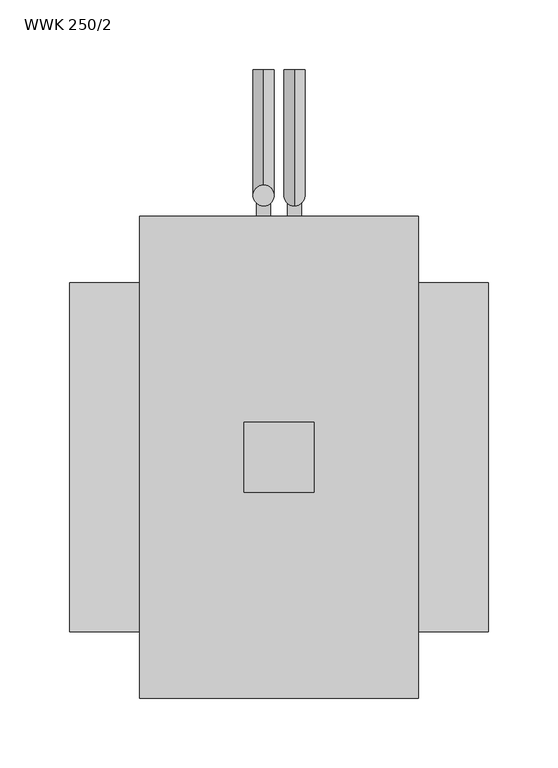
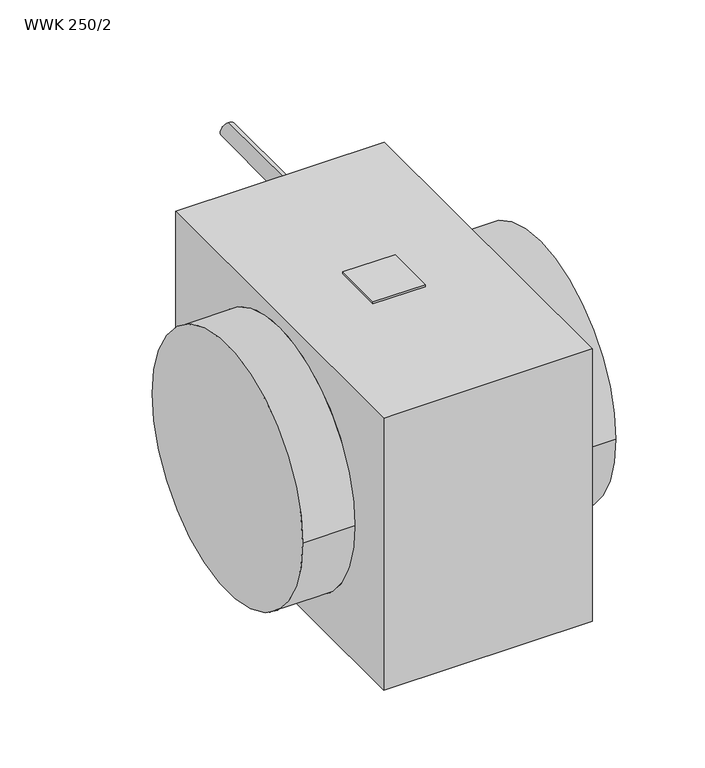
"""IFC4 building model written with IfcOpenShell, lengths in millimetres: proxy geometry, KORF_Нагреватель_Водяной_Круглый_WWK : WWK 250/2."""

from ifc_helpers import new_model, si_unit, point, frame, frame_2d, origin, place, context, project, spatial, polyline, circle_curve, ellipse_curve, trimmed, segment, composite_curve, outline, extrude, source, transform, mapped, element, save
from ifc_brep_helpers import plane_surface, cylinder_surface, advanced_brep


def wwk_250_2_b55ce8c8(model_context):
    return source(origin(), model_context, "Body", "SolidModel", [
        extrude(outline(polyline([(175.0, 25.0), (175.0, -25.0), (125.0, -25.0), (125.0, 25.0), (175.0, 25.0)])), frame((0.0, 0.0, 138.0), z_axis=(0.0, 0.0, 1.0), x_axis=(1.0, 0.0, 0.0)), (0.0, 0.0, 1.0), 2.0),
        advanced_brep(
        [(300.0, -125.0, 0.0), (300.0, 125.0, 0.0), (0.0, -125.0, 0.0), (0.0, 125.0, 0.0), (250.0, -125.0, 0.0), (250.0, 125.0, 0.0), (50.0, 125.0, 0.0), (50.0, -125.0, 0.0), (250.0, -172.5, 138.0), (250.0, -172.5, -138.0), (250.0, 172.5, -138.0), (250.0, 172.5, 138.0), (50.0, -172.5, 138.0), (50.0, 172.5, 138.0), (50.0, 172.5, -138.0), (50.0, -172.5, -138.0), (53.0, 172.5, 135.0), (53.0, 172.5, -135.0), (247.0, 172.5, -135.0), (247.0, 172.5, 135.0), (53.0, 152.5, 135.0), (247.0, 152.5, 135.0), (247.0, 152.5, -135.0), (53.0, 152.5, -135.0)],
        [
            (0, 1, circle_curve(frame((300.0, 0.0, 0.0), z_axis=(1.0, 0.0, 0.0), x_axis=(0.0, 1.0, 0.0)), 125.0)),
            (1, 0, circle_curve(frame((300.0, 0.0, 0.0), z_axis=(1.0, 0.0, 0.0), x_axis=(0.0, 1.0, 0.0)), 125.0)),
            (2, 3, circle_curve(frame((0.0, 0.0, 0.0), z_axis=(-1.0, 0.0, 0.0), x_axis=(0.0, 1.0, 0.0)), 125.0)),
            (3, 2, circle_curve(frame((0.0, 0.0, 0.0), z_axis=(-1.0, 0.0, 0.0), x_axis=(0.0, 1.0, 0.0)), 125.0)),
            (0, 4),
            (4, 5, circle_curve(frame((250.0, 0.0, 0.0), z_axis=(1.0, 0.0, 0.0), x_axis=(0.0, 1.0, 0.0)), 125.0)),
            (5, 1),
            (3, 6),
            (6, 7, circle_curve(frame((50.0, 0.0, 0.0), z_axis=(-1.0, 0.0, 0.0), x_axis=(0.0, 1.0, 0.0)), 125.0)),
            (7, 2),
            (5, 4, circle_curve(frame((250.0, 0.0, 0.0), z_axis=(1.0, 0.0, 0.0), x_axis=(0.0, 1.0, 0.0)), 125.0)),
            (7, 6, circle_curve(frame((50.0, 0.0, 0.0), z_axis=(-1.0, 0.0, 0.0), x_axis=(0.0, 1.0, 0.0)), 125.0)),
            (8, 9),
            (9, 10),
            (10, 11),
            (11, 8),
            (12, 13),
            (13, 14),
            (14, 15),
            (15, 12),
            (8, 12),
            (15, 9),
            (14, 10),
            (13, 11),
            (16, 17),
            (17, 18),
            (18, 19),
            (19, 16),
            (20, 21),
            (21, 22),
            (22, 23),
            (23, 20),
            (23, 17),
            (16, 20),
            (22, 18),
            (21, 19),
        ],
        [
            plane_surface(frame((300.0, 125.0, 0.0), z_axis=(1.0, 0.0, 0.0), x_axis=(0.0, 0.0, 1.0))),
            plane_surface(frame((0.0, 125.0, 0.0), z_axis=(-1.0, 0.0, 0.0), x_axis=(0.0, 0.0, -1.0))),
            cylinder_surface(frame((0.0, 0.0, 0.0), z_axis=(1.0, 0.0, 0.0), x_axis=(0.0, 1.0, 0.0)), 125.0),
            plane_surface(frame((250.0, -172.5, 138.0), z_axis=(1.0, 0.0, 0.0), x_axis=(0.0, 0.0, -1.0))),
            plane_surface(frame((50.0, -172.5, 138.0), z_axis=(-1.0, 0.0, 0.0), x_axis=(0.0, 0.0, 1.0))),
            plane_surface(frame((250.0, -172.5, 138.0), z_axis=(0.0, -1.0, 0.0), x_axis=(-1.0, 0.0, 0.0))),
            plane_surface(frame((250.0, -172.5, -138.0), z_axis=(0.0, 0.0, -1.0), x_axis=(-1.0, 0.0, 0.0))),
            plane_surface(frame((250.0, 172.5, -138.0), z_axis=(0.0, 1.0, 0.0), x_axis=(-1.0, 0.0, 0.0))),
            plane_surface(frame((250.0, 172.5, 138.0), z_axis=(0.0, 0.0, 1.0), x_axis=(-1.0, 0.0, 0.0))),
            plane_surface(frame((53.0, 152.5, 135.0), z_axis=(0.0, 1.0, 0.0), x_axis=(0.0, 0.0, -1.0))),
            plane_surface(frame((53.0, 152.5, 135.0), z_axis=(1.0, 0.0, 0.0), x_axis=(0.0, 1.0, 0.0))),
            plane_surface(frame((53.0, 152.5, -135.0), z_axis=(0.0, 0.0, 1.0), x_axis=(0.0, 1.0, 0.0))),
            plane_surface(frame((247.0, 152.5, -135.0), z_axis=(-1.0, 0.0, 0.0), x_axis=(0.0, 1.0, 0.0))),
            plane_surface(frame((247.0, 152.5, 135.0), z_axis=(0.0, 0.0, -1.0), x_axis=(0.0, 1.0, 0.0))),
        ],
        [
            (0, [[1, 2]]),
            (1, [[3, 4]]),
            (2, [[-1, 5, 6, 7]]),
            (2, [[-4, 8, 9, 10]]),
            (2, [[-2, -7, 11, -5]]),
            (2, [[-3, -10, 12, -8]]),
            (3, [[13, 14, 15, 16], [-6, -11]]),
            (4, [[17, 18, 19, 20], [-9, -12]]),
            (5, [[-13, 21, -20, 22]]),
            (6, [[-14, -22, -19, 23]]),
            (7, [[-15, -23, -18, 24], [25, 26, 27, 28]]),
            (8, [[-16, -24, -17, -21]]),
            (9, [[29, 30, 31, 32]]),
            (10, [[-32, 33, -25, 34]]),
            (11, [[-31, 35, -26, -33]]),
            (12, [[-30, 36, -27, -35]]),
            (13, [[-29, -34, -28, -36]]),
        ],
    ),
        extrude(outline(composite_curve([segment(trimmed(circle_curve(frame_2d((118.0, 161.0)), 5.0), [point((118.0, 156.0))], [point((118.0, 166.0))], False, "CARTESIAN"), True, "CONTINUOUS"), segment(trimmed(circle_curve(frame_2d((118.0, 161.0)), 5.0), [point((118.0, 166.0))], [point((118.0, 156.0))], False, "CARTESIAN"), True, "CONTINUOUS")], self_intersect=False)), frame((0.0, 172.5, 0.0), z_axis=(0.0, 1.0, 0.0), x_axis=(0.0, 0.0, 1.0)), (0.0, 0.0, 1.0), 15.0),
        extrude(outline(composite_curve([segment(trimmed(circle_curve(frame_2d((47.2, 161.0)), 5.0), [point((47.2, 156.0))], [point((47.2, 166.0))], False, "CARTESIAN"), True, "CONTINUOUS"), segment(trimmed(circle_curve(frame_2d((47.2, 161.0)), 5.0), [point((47.2, 166.0))], [point((47.2, 156.0))], False, "CARTESIAN"), True, "CONTINUOUS")], self_intersect=False)), frame((0.0, 172.5, 0.0), z_axis=(0.0, 1.0, 0.0), x_axis=(0.0, 0.0, 1.0)), (0.0, 0.0, 1.0), 15.0),
        extrude(outline(composite_curve([segment(trimmed(circle_curve(frame_2d((-23.6, 161.0)), 5.0), [point((-23.6, 156.0))], [point((-23.6, 166.0))], False, "CARTESIAN"), True, "CONTINUOUS"), segment(trimmed(circle_curve(frame_2d((-23.6, 161.0)), 5.0), [point((-23.6, 166.0))], [point((-23.6, 156.0))], False, "CARTESIAN"), True, "CONTINUOUS")], self_intersect=False)), frame((0.0, 172.5, 0.0), z_axis=(0.0, 1.0, 0.0), x_axis=(0.0, 0.0, 1.0)), (0.0, 0.0, 1.0), 15.0),
        extrude(outline(composite_curve([segment(trimmed(circle_curve(frame_2d((23.6, 139.0)), 5.0), [point((23.6, 134.0))], [point((23.6, 144.0))], False, "CARTESIAN"), True, "CONTINUOUS"), segment(trimmed(circle_curve(frame_2d((23.6, 139.0)), 5.0), [point((23.6, 144.0))], [point((23.6, 134.0))], False, "CARTESIAN"), True, "CONTINUOUS")], self_intersect=False)), frame((0.0, 172.5, 0.0), z_axis=(0.0, 1.0, 0.0), x_axis=(0.0, 0.0, 1.0)), (0.0, 0.0, 1.0), 15.0),
        extrude(outline(composite_curve([segment(trimmed(circle_curve(frame_2d((-47.2, 139.0)), 5.0), [point((-47.2, 134.0))], [point((-47.2, 144.0))], False, "CARTESIAN"), True, "CONTINUOUS"), segment(trimmed(circle_curve(frame_2d((-47.2, 139.0)), 5.0), [point((-47.2, 144.0))], [point((-47.2, 134.0))], False, "CARTESIAN"), True, "CONTINUOUS")], self_intersect=False)), frame((0.0, 172.5, 0.0), z_axis=(0.0, 1.0, 0.0), x_axis=(0.0, 0.0, 1.0)), (0.0, 0.0, 1.0), 15.0),
        extrude(outline(composite_curve([segment(trimmed(circle_curve(frame_2d((-118.0, 139.0)), 5.0), [point((-118.0, 134.0))], [point((-118.0, 144.0))], False, "CARTESIAN"), True, "CONTINUOUS"), segment(trimmed(circle_curve(frame_2d((-118.0, 139.0)), 5.0), [point((-118.0, 144.0))], [point((-118.0, 134.0))], False, "CARTESIAN"), True, "CONTINUOUS")], self_intersect=False)), frame((0.0, 172.5, 0.0), z_axis=(0.0, 1.0, 0.0), x_axis=(0.0, 0.0, 1.0)), (0.0, 0.0, 1.0), 15.0),
        advanced_brep(
        [(139.0, 277.5, -110.5), (139.0, 277.5, -125.5), (139.0, 195.0, -110.5), (139.0, 180.0, -125.5), (139.0, 195.0, 94.4), (139.0, 180.0, 94.4)],
        [
            (0, 1, circle_curve(frame((139.0, 277.5, -118.0), z_axis=(0.0, 1.0, 0.0), x_axis=(0.0, 0.0, -1.0)), 7.5)),
            (1, 0, circle_curve(frame((139.0, 277.5, -118.0), z_axis=(0.0, 1.0, 0.0), x_axis=(0.0, 0.0, -1.0)), 7.5)),
            (0, 2),
            (2, 3, ellipse_curve(frame((139.0, 187.5, -118.0), z_axis=(0.0, 0.7071067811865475, -0.7071067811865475), x_axis=(0.0, 0.7071067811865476, 0.7071067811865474)), 10.6066017, 7.5)),
            (3, 1),
            (3, 2, ellipse_curve(frame((139.0, 187.5, -118.0), z_axis=(0.0, 0.7071067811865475, -0.7071067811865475), x_axis=(0.0, 0.7071067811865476, 0.7071067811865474)), 10.6066017, 7.5)),
            (4, 5, circle_curve(frame((139.0, 187.5, 94.4), z_axis=(0.0, 0.0, 1.0), x_axis=(0.0, -1.0, 0.0)), 7.5)),
            (5, 4, circle_curve(frame((139.0, 187.5, 94.4), z_axis=(0.0, 0.0, 1.0), x_axis=(0.0, -1.0, 0.0)), 7.5)),
            (2, 4),
            (5, 3),
        ],
        [
            plane_surface(frame((139.0, 277.5, -118.0), z_axis=(0.0, 1.0, 0.0), x_axis=(1.0, 0.0, 0.0))),
            cylinder_surface(frame((139.0, 277.5, -118.0), z_axis=(0.0, 1.0, 0.0), x_axis=(0.0, 0.0, -1.0)), 7.5),
            plane_surface(frame((139.0, 187.5, 94.4), z_axis=(0.0, 0.0, 1.0), x_axis=(1.0, 0.0, 0.0))),
            cylinder_surface(frame((139.0, 187.5, -118.0), z_axis=(0.0, 0.0, -1.0), x_axis=(0.0, -1.0, 0.0)), 7.5),
        ],
        [
            (0, [[1, 2]]),
            (1, [[-1, 3, 4, 5]]),
            (1, [[-2, -5, 6, -3]]),
            (2, [[7, 8]]),
            (3, [[-4, 9, -8, 10]]),
            (3, [[-6, -10, -7, -9]]),
        ],
    ),
        advanced_brep(
        [(161.0, 277.5, 110.5), (161.0, 277.5, 125.5), (161.0, 195.0, 110.5), (161.0, 180.0, 125.5), (161.0, 195.0, -94.4), (161.0, 180.0, -94.4)],
        [
            (0, 1, circle_curve(frame((161.0, 277.5, 118.0), z_axis=(0.0, 1.0, 0.0), x_axis=(0.0, 0.0, 1.0)), 7.5)),
            (1, 0, circle_curve(frame((161.0, 277.5, 118.0), z_axis=(0.0, 1.0, 0.0), x_axis=(0.0, 0.0, 1.0)), 7.5)),
            (0, 2),
            (2, 3, ellipse_curve(frame((161.0, 187.5, 118.0), z_axis=(0.0, 0.7071067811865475, 0.7071067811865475), x_axis=(0.0, 0.7071067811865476, -0.7071067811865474)), 10.6066017, 7.5)),
            (3, 1),
            (3, 2, ellipse_curve(frame((161.0, 187.5, 118.0), z_axis=(0.0, 0.7071067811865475, 0.7071067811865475), x_axis=(0.0, 0.7071067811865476, -0.7071067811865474)), 10.6066017, 7.5)),
            (4, 5, circle_curve(frame((161.0, 187.5, -94.4), z_axis=(0.0, 0.0, -1.0), x_axis=(0.0, -1.0, 0.0)), 7.5)),
            (5, 4, circle_curve(frame((161.0, 187.5, -94.4), z_axis=(0.0, 0.0, -1.0), x_axis=(0.0, -1.0, 0.0)), 7.5)),
            (2, 4),
            (5, 3),
        ],
        [
            plane_surface(frame((161.0, 277.5, 118.0), z_axis=(0.0, 1.0, 0.0), x_axis=(-1.0, 0.0, 0.0))),
            cylinder_surface(frame((161.0, 277.5, 118.0), z_axis=(0.0, 1.0, 0.0), x_axis=(0.0, 0.0, 1.0)), 7.5),
            plane_surface(frame((161.0, 187.5, -94.4), z_axis=(0.0, 0.0, -1.0), x_axis=(-1.0, 0.0, 0.0))),
            cylinder_surface(frame((161.0, 187.5, 118.0), z_axis=(0.0, 0.0, 1.0), x_axis=(0.0, -1.0, 0.0)), 7.5),
        ],
        [
            (0, [[1, 2]]),
            (1, [[-1, 3, 4, 5]]),
            (1, [[-2, -5, 6, -3]]),
            (2, [[7, 8]]),
            (3, [[-4, 9, -8, 10]]),
            (3, [[-6, -10, -7, -9]]),
        ],
    ),
    ])


if __name__ == "__main__":
    model = new_model("IFC4")
    model_context = context("Model", 3, world=origin())
    ifc_project = project(units=[si_unit("LENGTHUNIT", "METRE", prefix="MILLI")], contexts=[model_context])
    site = spatial("IfcSite", under=ifc_project)
    building = spatial("IfcBuilding", under=site)
    placement = place(None, origin())
    wwk_250_2_shape = wwk_250_2_b55ce8c8(model_context)
    element("IfcBuildingElementProxy", 1, Name="KORF_Нагреватель_Водяной_Круглый_WWK : WWK 250/2", ObjectType="KORF_Нагреватель_Водяной_Круглый_WWK : WWK 250/2", at=placement, inside=building, context=model_context, shape_type="MappedRepresentation", body=[
        mapped(wwk_250_2_shape, transform((0.0, 0.0, 0.0), x_axis=(1.0, 0.0, 0.0), y_axis=(0.0, 1.0, 0.0), z_axis=(0.0, 0.0, 1.0))),
    ])
    save(model, "model.ifc")
